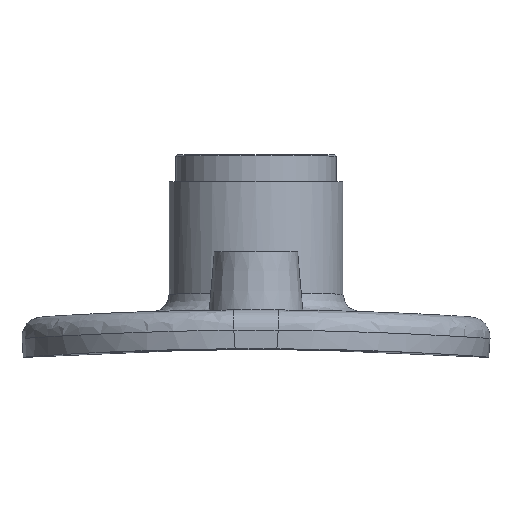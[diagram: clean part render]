
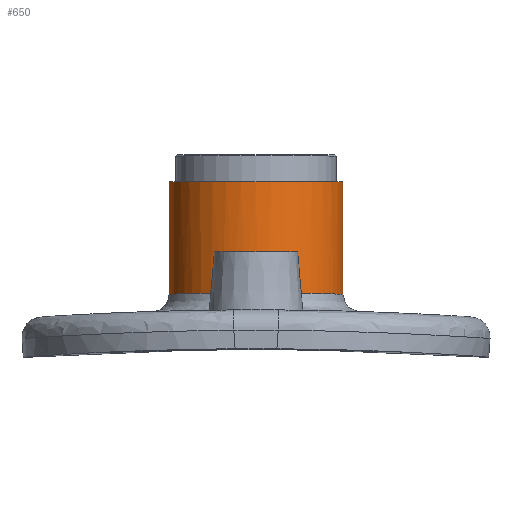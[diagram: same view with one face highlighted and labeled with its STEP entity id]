
A CAD part, top view. The second image highlights one B-rep face of the part: STEP entity #650.
In plain terms, the highlighted cylindrical face has radius 15.676 mm (diameter 31.352 mm), a full revolution.
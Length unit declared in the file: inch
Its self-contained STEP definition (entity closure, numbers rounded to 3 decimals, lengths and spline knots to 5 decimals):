
#29=B_SPLINE_CURVE_WITH_KNOTS('',3,(#1160,#1161,#1162,#1163,#1164,#1165,
#1166),.UNSPECIFIED.,.F.,.F.,(4,1,1,1,4),(-9.44838,-8.77349,
-8.09861,-7.19876,-7.08626),.UNSPECIFIED.);
#30=B_SPLINE_CURVE_WITH_KNOTS('',3,(#1167,#1168,#1169,#1170,#1171,#1172,
#1173,#1174,#1175,#1176,#1177,#1178,#1179,#1180,#1181,#1182),
 .UNSPECIFIED.,.F.,.F.,(4,1,1,1,1,1,1,1,1,1,1,1,1,4),(-7.08626,
-6.74884,-6.29892,-5.84899,-5.39907,
-4.49923,-4.27427,-4.0493,-3.14946,
-2.69954,-2.02465,-1.34977,-0.67488,
0.),.UNSPECIFIED.);
#72=LINE('',#1264,#100);
#73=LINE('',#1266,#101);
#100=VECTOR('',#823,0.61717);
#101=VECTOR('',#824,0.61717);
#127=CYLINDRICAL_SURFACE('',#719,0.61717);
#151=FACE_OUTER_BOUND('',#197,.T.);
#197=EDGE_LOOP('',(#477,#478,#479,#480,#481,#482,#483,#484));
#244=CIRCLE('',#720,0.61717);
#245=CIRCLE('',#721,0.61717);
#286=VERTEX_POINT('',#1137);
#288=VERTEX_POINT('',#1159);
#297=VERTEX_POINT('',#1260);
#298=VERTEX_POINT('',#1261);
#299=VERTEX_POINT('',#1265);
#355=EDGE_CURVE('',#286,#288,#29,.T.);
#356=EDGE_CURVE('',#288,#286,#30,.T.);
#366=EDGE_CURVE('',#297,#298,#244,.T.);
#367=EDGE_CURVE('',#298,#297,#245,.T.);
#368=EDGE_CURVE('',#298,#288,#72,.T.);
#369=EDGE_CURVE('',#299,#288,#73,.T.);
#477=ORIENTED_EDGE('',*,*,#366,.F.);
#478=ORIENTED_EDGE('',*,*,#367,.F.);
#479=ORIENTED_EDGE('',*,*,#368,.T.);
#480=ORIENTED_EDGE('',*,*,#369,.F.);
#481=ORIENTED_EDGE('',*,*,#369,.T.);
#482=ORIENTED_EDGE('',*,*,#355,.F.);
#483=ORIENTED_EDGE('',*,*,#356,.F.);
#484=ORIENTED_EDGE('',*,*,#368,.F.);
#650=ADVANCED_FACE('',(#151),#127,.T.);
#719=AXIS2_PLACEMENT_3D('',#1259,#817,#818);
#720=AXIS2_PLACEMENT_3D('',#1262,#819,#820);
#721=AXIS2_PLACEMENT_3D('',#1263,#821,#822);
#817=DIRECTION('center_axis',(0.,1.,0.));
#818=DIRECTION('ref_axis',(0.,0.,1.));
#819=DIRECTION('center_axis',(0.,1.,0.));
#820=DIRECTION('ref_axis',(1.,0.,0.));
#821=DIRECTION('center_axis',(0.,1.,0.));
#822=DIRECTION('ref_axis',(1.,0.,0.));
#823=DIRECTION('',(0.,-1.,0.));
#824=DIRECTION('',(0.,1.,0.));
#1137=CARTESIAN_POINT('',(-0.61717,24.28139,0.));
#1159=CARTESIAN_POINT('',(0.,24.29273,-0.61717));
#1160=CARTESIAN_POINT('Ctrl Pts',(-0.61717,24.28139,0.));
#1161=CARTESIAN_POINT('Ctrl Pts',(-0.61717,24.28139,-0.09233));
#1162=CARTESIAN_POINT('Ctrl Pts',(-0.57498,24.28299,-0.27671));
#1163=CARTESIAN_POINT('Ctrl Pts',(-0.37839,24.28917,-0.52405));
#1164=CARTESIAN_POINT('Ctrl Pts',(-0.15393,24.29256,-0.61215));
#1165=CARTESIAN_POINT('Ctrl Pts',(-0.01544,24.29275,
-0.61728));
#1166=CARTESIAN_POINT('Ctrl Pts',(-0.00004,24.29275,
-0.61727));
#1167=CARTESIAN_POINT('Ctrl Pts',(-0.00004,24.29275,
-0.61727));
#1168=CARTESIAN_POINT('Ctrl Pts',(0.04613,24.29274,-0.61723));
#1169=CARTESIAN_POINT('Ctrl Pts',(0.15391,24.29227,-0.60494));
#1170=CARTESIAN_POINT('Ctrl Pts',(0.31325,24.29007,-0.54257));
#1171=CARTESIAN_POINT('Ctrl Pts',(0.45916,24.28662,-0.42606));
#1172=CARTESIAN_POINT('Ctrl Pts',(0.59977,24.28217,-0.22046));
#1173=CARTESIAN_POINT('Ctrl Pts',(0.63357,24.28077,0.00209));
#1174=CARTESIAN_POINT('Ctrl Pts',(0.59194,24.28231,0.18263));
#1175=CARTESIAN_POINT('Ctrl Pts',(0.52465,24.28463,0.35523));
#1176=CARTESIAN_POINT('Ctrl Pts',(0.3713,24.28926,0.51986));
#1177=CARTESIAN_POINT('Ctrl Pts',(0.11037,24.29291,0.62214));
#1178=CARTESIAN_POINT('Ctrl Pts',(-0.14201,24.29291,0.62226));
#1179=CARTESIAN_POINT('Ctrl Pts',(-0.39798,24.2885,0.49895));
#1180=CARTESIAN_POINT('Ctrl Pts',(-0.57503,24.28302,0.27695));
#1181=CARTESIAN_POINT('Ctrl Pts',(-0.61717,24.28139,0.09233));
#1182=CARTESIAN_POINT('Ctrl Pts',(-0.61717,24.28139,0.));
#1259=CARTESIAN_POINT('Origin',(0.,24.48513,0.));
#1260=CARTESIAN_POINT('',(0.,25.07853,0.61717));
#1261=CARTESIAN_POINT('',(0.,25.07853,-0.61717));
#1262=CARTESIAN_POINT('Origin',(0.,25.07853,0.));
#1263=CARTESIAN_POINT('Origin',(0.,25.07853,0.));
#1264=CARTESIAN_POINT('',(0.,24.48513,-0.61717));
#1265=CARTESIAN_POINT('',(0.,24.28097,-0.61717));
#1266=CARTESIAN_POINT('',(0.,24.48513,-0.61717));
